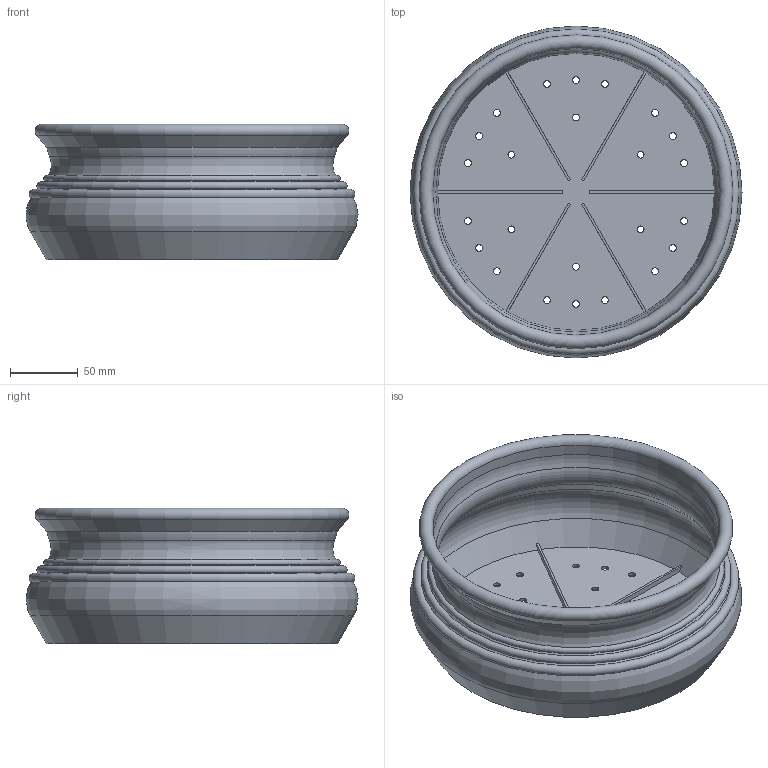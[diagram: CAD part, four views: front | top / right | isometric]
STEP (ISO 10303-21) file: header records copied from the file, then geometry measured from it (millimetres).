
FILE_DESCRIPTION(/* description */ (''),/* implementation_level */ '2;1');
FILE_NAME(/* name */ 'LR2406-S17-H100-D250_step.step',/* time_stamp */ '2024-02-01T11:02:59+01:00',/* author */ (''),/* organization */ (''),/* preprocessor_version */ 'ST-DEVELOPER v20',/* originating_system */ 'Autodesk Translation Framework v12.20.1.177',/* authorisation */ '');
FILE_SCHEMA (('AUTOMOTIVE_DESIGN { 1 0 10303 214 3 1 1 }'));
Length unit declared in the file: millimetre
Products named in the file (1): LR2406-S17-H100-D250
Bounding box: 244.72 x 244.72 x 100 mm (x, y, z)
Volume: 291694.5 mm3; surface area: 241260.2 mm2
Topology: 1 solids, 1 shells, 67 faces, 179 edges, 114 vertices
Faces by surface type: cylinder 31, plane 20, torus 10, cone 6
Full cylindrical faces by diameter (mm): 5 x24, 211.36 x1
Entity records: 2261 total; most frequent: DIRECTION 415, CARTESIAN_POINT 361, ORIENTED_EDGE 358, EDGE_CURVE 179, AXIS2_PLACEMENT_3D 168, EDGE_LOOP 115, VERTEX_POINT 114, CIRCLE 100
